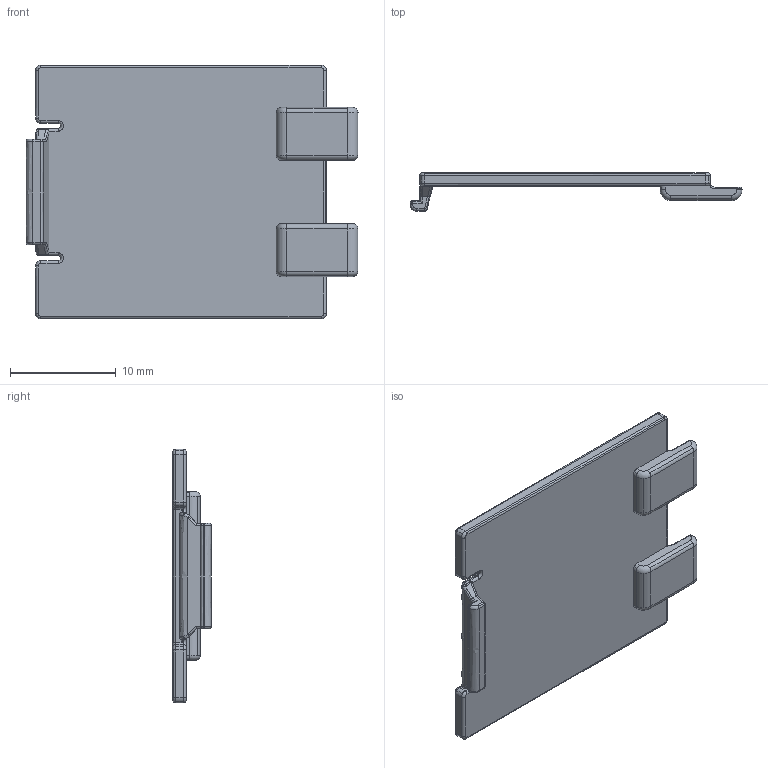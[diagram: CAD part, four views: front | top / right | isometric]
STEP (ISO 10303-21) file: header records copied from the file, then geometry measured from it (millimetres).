
FILE_DESCRIPTION(('STEP AP214'),'1');
FILE_NAME('Little-Bottom Door v20.stp','2020-05-16T13:50:28',(' '),(' '),'Spatial InterOp 3D',' ',' ');
FILE_SCHEMA(('AUTOMOTIVE_DESIGN { 1 0 10303 214 1 1 1 1 }'));
Length unit declared in the file: metre
Products named in the file (1): Corps111
Bounding box: 31.41 x 3.64 x 24 mm (x, y, z)
Volume: 928.7 mm3; surface area: 1592.7 mm2
Topology: 1 solids, 1 shells, 224 faces, 576 edges, 350 vertices
Faces by surface type: cylinder 130, torus 42, plane 34, sphere 10, bspline 8
Entity records: 7875 total; most frequent: CARTESIAN_POINT 2255, DIRECTION 1296, ORIENTED_EDGE 1144, EDGE_CURVE 572, AXIS2_PLACEMENT_3D 531, VERTEX_POINT 350, CIRCLE 294, LINE 234
